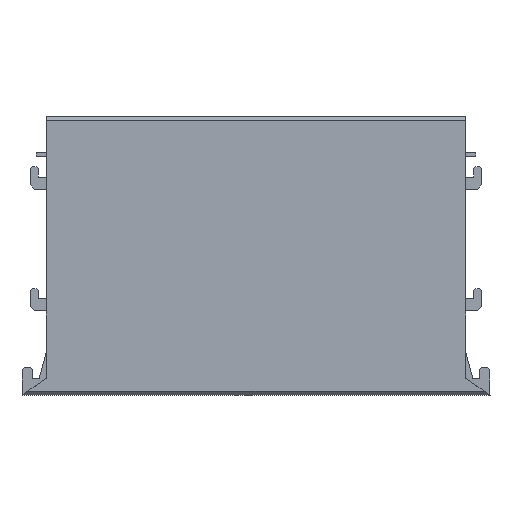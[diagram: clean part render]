
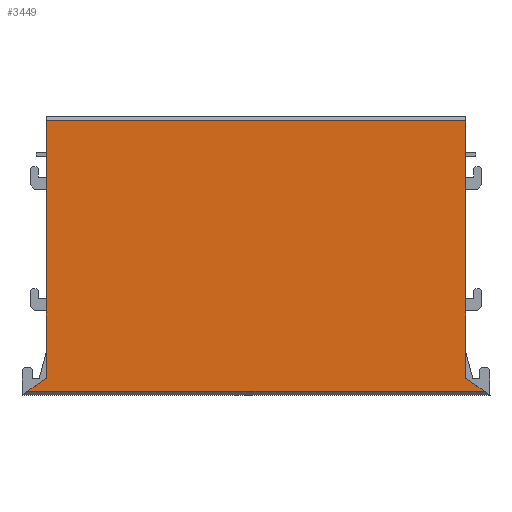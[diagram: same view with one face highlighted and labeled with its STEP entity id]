
A CAD part, top view. The second image highlights one B-rep face of the part: STEP entity #3449.
In plain terms, the highlighted planar face has unit normal (0, 0, 1).
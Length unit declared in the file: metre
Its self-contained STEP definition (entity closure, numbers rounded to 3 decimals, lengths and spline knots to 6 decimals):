
#354=ORIENTED_EDGE('',*,*,#1197,.F.);
#355=ORIENTED_EDGE('',*,*,#1303,.T.);
#356=ORIENTED_EDGE('',*,*,#1222,.T.);
#357=ORIENTED_EDGE('',*,*,#1283,.F.);
#358=ORIENTED_EDGE('',*,*,#1304,.T.);
#359=ORIENTED_EDGE('',*,*,#1305,.T.);
#1197=EDGE_CURVE('',#1688,#1689,#2033,.T.);
#1222=EDGE_CURVE('',#1711,#1712,#2058,.T.);
#1283=EDGE_CURVE('',#1760,#1712,#2118,.T.);
#1303=EDGE_CURVE('',#1688,#1711,#2137,.T.);
#1304=EDGE_CURVE('',#1760,#1770,#2138,.T.);
#1305=EDGE_CURVE('',#1770,#1689,#2139,.T.);
#1688=VERTEX_POINT('',#5023);
#1689=VERTEX_POINT('',#5025);
#1711=VERTEX_POINT('',#5073);
#1712=VERTEX_POINT('',#5074);
#1760=VERTEX_POINT('',#5189);
#1770=VERTEX_POINT('',#5229);
#2033=LINE('',#5024,#2469);
#2058=LINE('',#5072,#2494);
#2118=LINE('',#5190,#2554);
#2137=LINE('',#5227,#2573);
#2138=LINE('',#5228,#2574);
#2139=LINE('',#5230,#2575);
#2469=VECTOR('',#4002,1.);
#2494=VECTOR('',#4029,1.);
#2554=VECTOR('',#4105,1.);
#2573=VECTOR('',#4142,1.);
#2574=VECTOR('',#4143,1.);
#2575=VECTOR('',#4144,1.);
#2853=EDGE_LOOP('',(#354,#355,#356,#357,#358,#359));
#3075=FACE_BOUND('',#2853,.T.);
#3286=PLANE('',#3658);
#3449=ADVANCED_FACE('',(#3075),#3286,.T.);
#3658=AXIS2_PLACEMENT_3D('',#5226,#4140,#4141);
#4002=DIRECTION('',(0.,-1.,0.));
#4029=DIRECTION('',(0.,-1.,0.));
#4105=DIRECTION('',(0.819,0.574,0.));
#4140=DIRECTION('',(0.,0.,1.));
#4141=DIRECTION('',(1.,0.,0.));
#4142=DIRECTION('',(-1.,0.,0.));
#4143=DIRECTION('',(1.,0.,0.));
#4144=DIRECTION('',(-0.819,0.574,0.));
#5023=CARTESIAN_POINT('',(0.102882,0.06415,0.00825));
#5024=CARTESIAN_POINT('',(0.102882,0.001987,0.00825));
#5025=CARTESIAN_POINT('',(0.102882,-0.062176,0.00825));
#5072=CARTESIAN_POINT('',(-0.102882,0.001987,0.00825));
#5073=CARTESIAN_POINT('',(-0.102882,0.06415,0.00825));
#5074=CARTESIAN_POINT('',(-0.102882,-0.062176,0.00825));
#5189=CARTESIAN_POINT('',(-0.112057,-0.0686,0.00825));
#5190=CARTESIAN_POINT('',(-0.108897,-0.066388,0.00825));
#5226=CARTESIAN_POINT('',(0.,-0.006225,0.00825));
#5227=CARTESIAN_POINT('',(-0.102882,0.06415,0.00825));
#5228=CARTESIAN_POINT('',(0.114913,-0.0686,0.00825));
#5229=CARTESIAN_POINT('',(0.112057,-0.0686,0.00825));
#5230=CARTESIAN_POINT('',(0.108897,-0.066388,0.00825));
